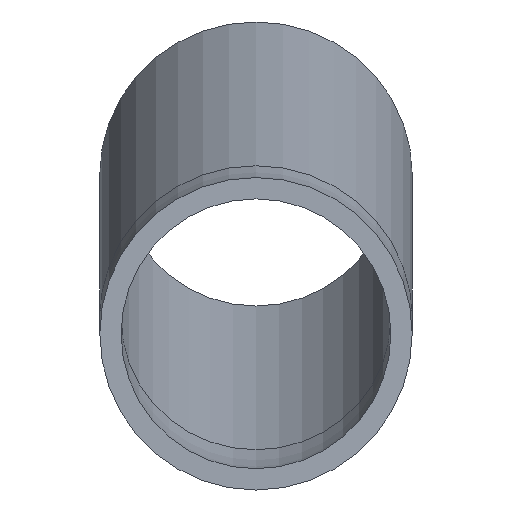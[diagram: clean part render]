
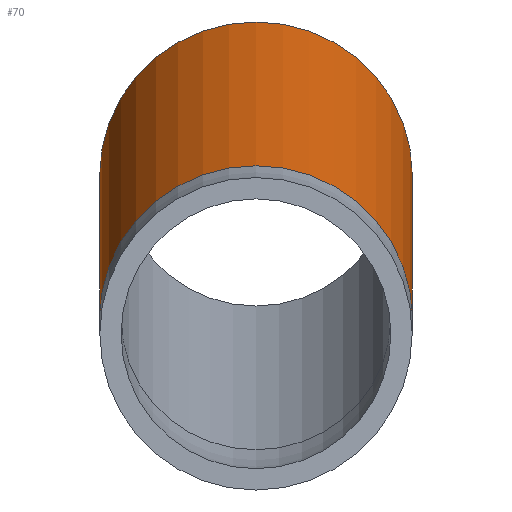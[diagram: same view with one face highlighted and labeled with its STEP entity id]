
A CAD part, left-side view. The second image highlights one B-rep face of the part: STEP entity #70.
In plain terms, the highlighted cylindrical face has radius 11 mm (diameter 22 mm), a partial arc.
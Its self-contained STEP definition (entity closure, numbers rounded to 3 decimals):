
#34=AXIS2_PLACEMENT_3D('Cylinder Axis2P3D',#31,#32,#33) ;
#38=AXIS2_PLACEMENT_3D('Circle Axis2P3D',#36,#37,$) ;
#54=AXIS2_PLACEMENT_3D('Circle Axis2P3D',#52,#53,$) ;
#31=CARTESIAN_POINT('Axis2P3D Location',(-13058.535,1060.057,376.779)) ;
#36=CARTESIAN_POINT('Axis2P3D Location',(-13080.995,1060.057,371.718)) ;
#40=CARTESIAN_POINT('Vertex',(-13080.995,1071.057,371.718)) ;
#42=CARTESIAN_POINT('Vertex',(-13080.995,1049.057,371.718)) ;
#45=CARTESIAN_POINT('Line Origine',(-13058.535,1049.057,376.779)) ;
#49=CARTESIAN_POINT('Vertex',(-13036.074,1049.057,381.841)) ;
#52=CARTESIAN_POINT('Axis2P3D Location',(-13036.074,1060.057,381.841)) ;
#56=CARTESIAN_POINT('Vertex',(-13036.074,1071.057,381.841)) ;
#59=CARTESIAN_POINT('Line Origine',(-13058.535,1071.057,376.779)) ;
#32=DIRECTION('Axis2P3D Direction',(0.976,0.,0.22)) ;
#33=DIRECTION('Axis2P3D XDirection',(0.,1.,0.)) ;
#37=DIRECTION('Axis2P3D Direction',(0.976,0.,0.22)) ;
#46=DIRECTION('Vector Direction',(0.976,0.,0.22)) ;
#53=DIRECTION('Axis2P3D Direction',(0.976,0.,0.22)) ;
#60=DIRECTION('Vector Direction',(0.976,0.,0.22)) ;
#47=VECTOR('Line Direction',#46,1.) ;
#61=VECTOR('Line Direction',#60,1.) ;
#65=ORIENTED_EDGE('',*,*,#44,.T.) ;
#66=ORIENTED_EDGE('',*,*,#51,.F.) ;
#67=ORIENTED_EDGE('',*,*,#58,.F.) ;
#68=ORIENTED_EDGE('',*,*,#63,.T.) ;
#70=ADVANCED_FACE('( + ) PartBody',(#69),#35,.T.) ;
#39=CIRCLE('generated circle',#38,11.) ;
#55=CIRCLE('generated circle',#54,11.) ;
#35=CYLINDRICAL_SURFACE('generated cylinder',#34,11.) ;
#44=EDGE_CURVE('',#41,#43,#39,.T.) ;
#51=EDGE_CURVE('',#50,#43,#48,.F.) ;
#58=EDGE_CURVE('',#57,#50,#55,.T.) ;
#63=EDGE_CURVE('',#57,#41,#62,.F.) ;
#64=EDGE_LOOP('',(#65,#66,#67,#68)) ;
#69=FACE_OUTER_BOUND('',#64,.T.) ;
#48=LINE('Line',#45,#47) ;
#62=LINE('Line',#59,#61) ;
#41=VERTEX_POINT('',#40) ;
#43=VERTEX_POINT('',#42) ;
#50=VERTEX_POINT('',#49) ;
#57=VERTEX_POINT('',#56) ;
